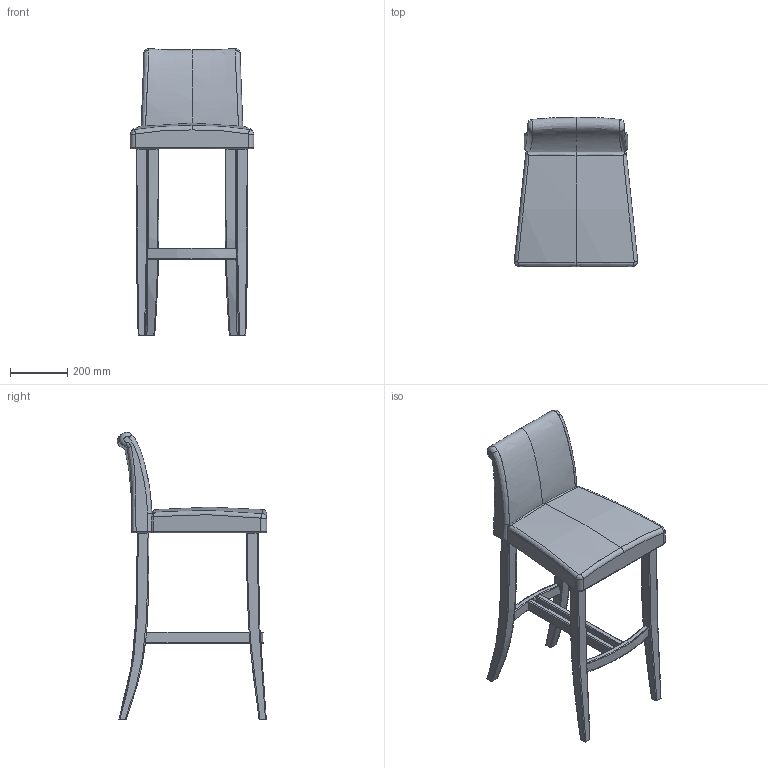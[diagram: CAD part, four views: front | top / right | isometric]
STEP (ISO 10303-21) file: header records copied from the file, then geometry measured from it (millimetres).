
FILE_DESCRIPTION(/* description */ (''),/* implementation_level */ '2;1');
FILE_NAME(/* name */ 'KINOSH~3',/* time_stamp */ '2019-07-19T13:02:26+09:00',/* author */ (''),/* organization */ (''),/* preprocessor_version */ 'ST-DEVELOPER v15',/* originating_system */ '',/* authorisation */ '');
FILE_SCHEMA (('AUTOMOTIVE_DESIGN'));
Length unit declared in the file: millimetre
Products named in the file (1): Document
Bounding box: 430 x 519.95 x 1000.23 mm (x, y, z)
Volume: 1084072.1 mm3; surface area: 1277228.4 mm2
Topology: 4 solids, 10 shells, 268 faces, 630 edges, 336 vertices
Faces by surface type: bspline 240, plane 28
Entity records: 22419 total; most frequent: CARTESIAN_POINT 18992, ORIENTED_EDGE 1160, EDGE_CURVE 626, VERTEX_POINT 336, B_SPLINE_CURVE_WITH_KNOTS 334, ADVANCED_FACE 268, FACE_OUTER_BOUND 268, EDGE_LOOP 268
